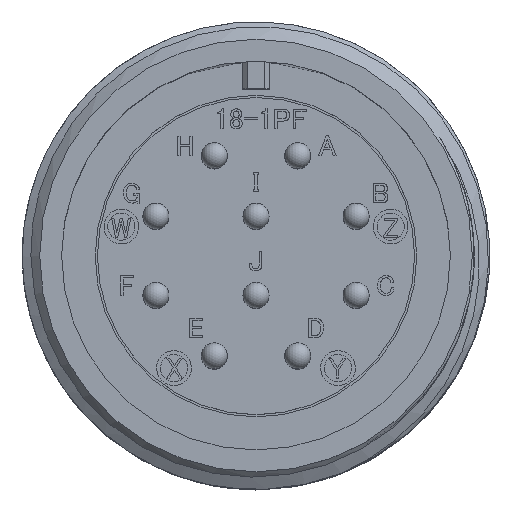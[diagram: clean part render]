
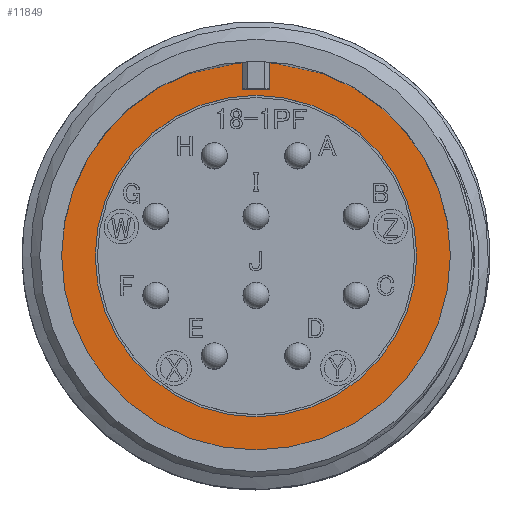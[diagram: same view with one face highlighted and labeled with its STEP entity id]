
A CAD part, top view. The second image highlights one B-rep face of the part: STEP entity #11849.
In plain terms, the highlighted planar face has unit normal (0, 0, 1).
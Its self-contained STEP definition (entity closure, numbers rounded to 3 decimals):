
#846 = DIRECTION ( 'NONE',  ( 0., 0., 1. ) ) ;
#4394 = DIRECTION ( 'NONE',  ( 0., 0., -1. ) ) ;
#5343 = ORIENTED_EDGE ( 'NONE', *, *, #24578, .T. ) ;
#6785 = CARTESIAN_POINT ( 'NONE',  ( 0., 9.795, -19.18 ) ) ;
#9530 = CARTESIAN_POINT ( 'NONE',  ( 0., 0., -19.18 ) ) ;
#9603 = AXIS2_PLACEMENT_3D ( 'NONE', #9530, #33496, #15379 ) ;
#10258 = VERTEX_POINT ( 'NONE', #19667 ) ;
#10917 = CARTESIAN_POINT ( 'NONE',  ( -11.84, 0., -19.18 ) ) ;
#11849 = ADVANCED_FACE ( 'NONE', ( #30909, #33244 ), #18991, .T. ) ;
#12645 = DIRECTION ( 'NONE',  ( 1., 0., 0. ) ) ;
#14238 = AXIS2_PLACEMENT_3D ( 'NONE', #22525, #4394, #31914 ) ;
#14623 = CIRCLE ( 'NONE', #14238, 11.84 ) ;
#15379 = DIRECTION ( 'NONE',  ( -1., 0., 0. ) ) ;
#18991 = PLANE ( 'NONE',  #30174 ) ;
#19667 = CARTESIAN_POINT ( 'NONE',  ( -9.795, 0., -19.18 ) ) ;
#22525 = CARTESIAN_POINT ( 'NONE',  ( 0., 0., -19.18 ) ) ;
#22713 = EDGE_LOOP ( 'NONE', ( #33582 ) ) ;
#24578 = EDGE_CURVE ( 'NONE', #10258, #10258, #36250, .T. ) ;
#29203 = EDGE_CURVE ( 'NONE', #31570, #31570, #14623, .T. ) ;
#30174 = AXIS2_PLACEMENT_3D ( 'NONE', #6785, #846, #12645 ) ;
#30909 = FACE_BOUND ( 'NONE', #36579, .T. ) ;
#31570 = VERTEX_POINT ( 'NONE', #10917 ) ;
#31914 = DIRECTION ( 'NONE',  ( -1., 0., 0. ) ) ;
#33244 = FACE_OUTER_BOUND ( 'NONE', #22713, .T. ) ;
#33496 = DIRECTION ( 'NONE',  ( 0., 0., -1. ) ) ;
#33582 = ORIENTED_EDGE ( 'NONE', *, *, #29203, .F. ) ;
#36250 = CIRCLE ( 'NONE', #9603, 9.795 ) ;
#36579 = EDGE_LOOP ( 'NONE', ( #5343 ) ) ;
